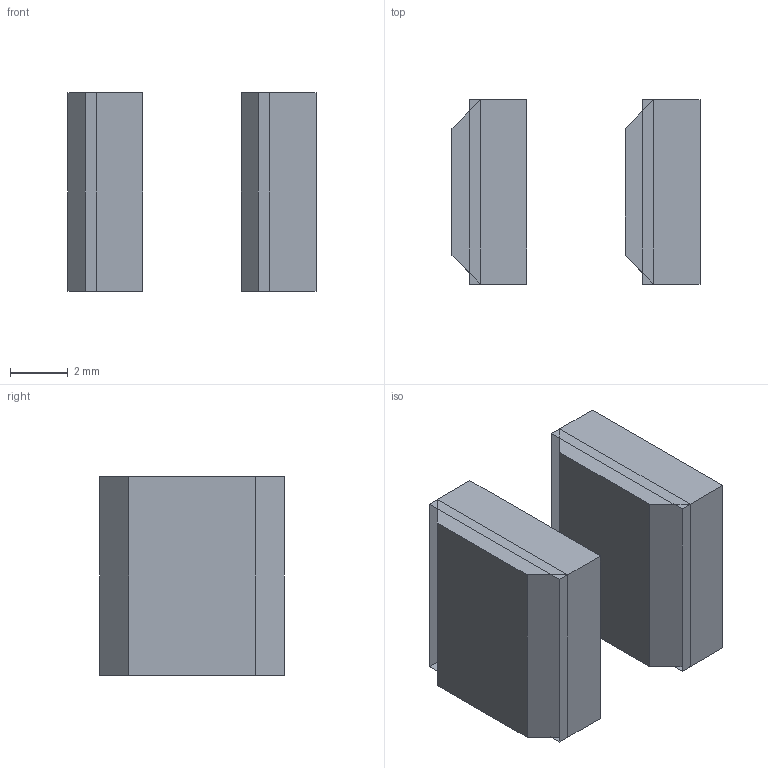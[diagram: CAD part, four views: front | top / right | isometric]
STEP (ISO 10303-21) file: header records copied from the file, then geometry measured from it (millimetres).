
FILE_DESCRIPTION(('AVO Performance Horse - montaje de la cincha (B-rep poliedrico)'),'2;1');
FILE_NAME('AVO_CINCHA_R6_9_portaimanes_PETG_x2','2026-11-15T12:00:00',('AVO Performance Horse'),('AVO Performance Horse'),'avo_cad.py','avo_cad.py (numpy)','');
FILE_SCHEMA(('AUTOMOTIVE_DESIGN { 1 0 10303 214 1 1 1 1 }'));
Length unit declared in the file: millimetre
Products named in the file (1): AVO_CINCHA_R6_9_portaimanes_PETG_x2
Bounding box: 8.6 x 6.4 x 6.9 mm (x, y, z)
Volume: 107.7 mm3; surface area: 420.6 mm2
Topology: 2 solids, 2 shells, 38 faces, 80 edges, 48 vertices
Faces by surface type: plane 38
Entity records: 727 total; most frequent: ORIENTED_EDGE 160, VECTOR 80, LINE 80, EDGE_CURVE 80, CARTESIAN_POINT 49, VERTEX_POINT 48, EDGE_LOOP 40, AXIS2_PLACEMENT_3D 39
